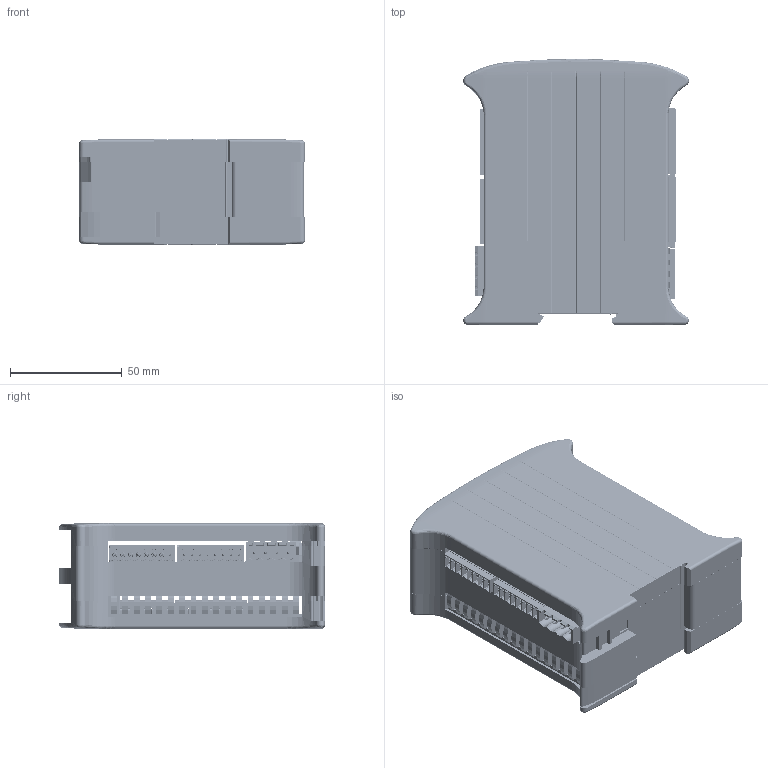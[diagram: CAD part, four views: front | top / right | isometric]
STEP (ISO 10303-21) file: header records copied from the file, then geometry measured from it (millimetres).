
FILE_DESCRIPTION(/* description */ (''),/* implementation_level */ '2;1');
FILE_NAME(/* name */ 'C:\Users\Jean-Yves\Documents\Inventor\rio40se\rio40se.stp',/* time_stamp */ '2022-05-06T16:34:59+02:00',/* author */ ('Jean-Yves'),/* organization */ (''),/* preprocessor_version */ 'ST-DEVELOPER v18',/* originating_system */ 'Autodesk Inventor 2020',/* authorisation */ '');
FILE_SCHEMA (('CONFIG_CONTROL_DESIGN'));
Products named in the file (1): rio40se_Shrinkwrap_1
Bounding box: 101 x 119.08 x 47.1 mm (x, y, z)
Volume: 124750 mm3; surface area: 146628.9 mm2
Topology: 38 solids, 38 shells, 8954 faces, 25310 edges, 16235 vertices
Faces by surface type: plane 6787, cylinder 1452, bspline 317, torus 259, cone 108, sphere 31
Full cylindrical faces by diameter (mm): 0.434 x1, 0.457 x1, 0.711 x16, 0.8 x2, 0.838 x16, 0.889 x13, 0.9 x2, 0.975 x4, 1.092 x55, 1.2 x6, 1.25 x55, 1.275 x4, 1.4 x4, 1.5 x42, 1.524 x4, 1.6 x5, 2.108 x4, 2.4 x8, 2.8 x3
Entity records: 304679 total; most frequent: CARTESIAN_POINT 60584, ORIENTED_EDGE 50550, DIRECTION 46863, EDGE_CURVE 25275, LINE 19987, VECTOR 19987, VERTEX_POINT 16235, AXIS2_PLACEMENT_3D 13438
